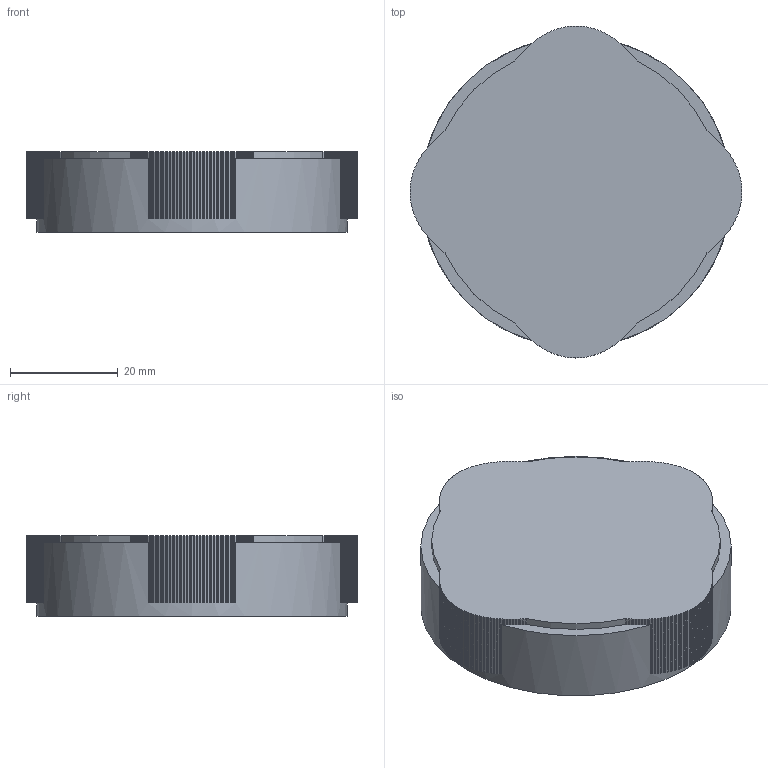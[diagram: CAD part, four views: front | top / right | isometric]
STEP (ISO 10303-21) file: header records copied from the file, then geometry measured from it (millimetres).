
FILE_DESCRIPTION(('Open CASCADE Model'),'2;1');
FILE_NAME('Open CASCADE Shape Model','2026-11-13T04:59:59',('Author'),( 'Open CASCADE'),'Open CASCADE STEP processor 7.9','Open CASCADE 7.9' ,'Unknown');
FILE_SCHEMA(('AUTOMOTIVE_DESIGN { 1 0 10303 214 1 1 1 1 }'));
Length unit declared in the file: millimetre
Products named in the file (1): Open CASCADE STEP translator 7.9 7
Bounding box: 61.6 x 61.6 x 15 mm (x, y, z)
Volume: 12075.4 mm3; surface area: 10636.2 mm2
Topology: 1 solids, 1 shells, 441 faces, 1305 edges, 870 vertices
Faces by surface type: plane 430, cylinder 11
Full cylindrical faces by diameter (mm): 50 x1, 51.95 x1, 57.6 x1
Entity records: 31096 total; most frequent: CARTESIAN_POINT 5627, DIRECTION 4469, LINE 3503, VECTOR 3503, ORIENTED_EDGE 2610, PCURVE 2610, DEFINITIONAL_REPRESENTATION 2610, EDGE_CURVE 1305
